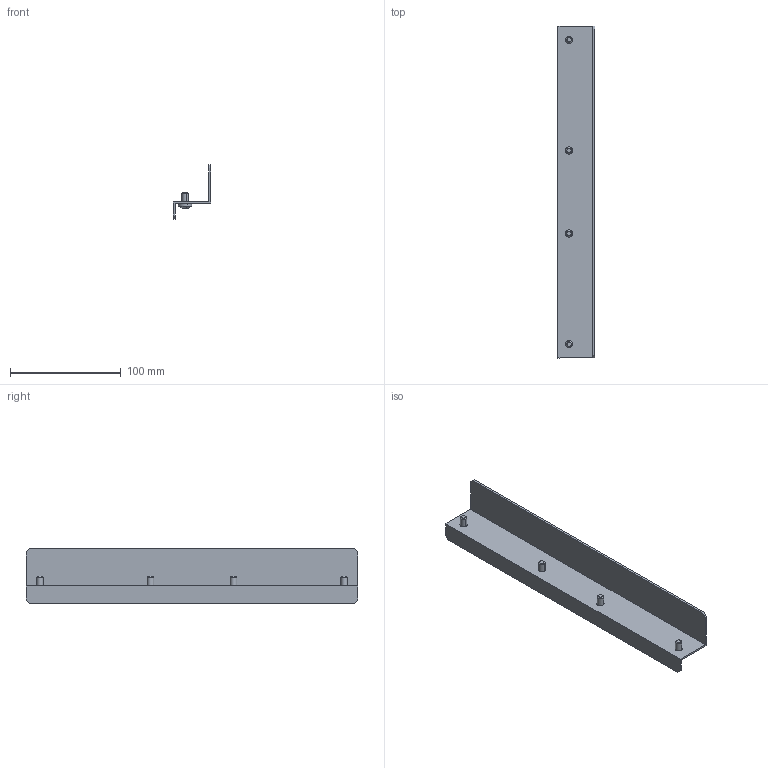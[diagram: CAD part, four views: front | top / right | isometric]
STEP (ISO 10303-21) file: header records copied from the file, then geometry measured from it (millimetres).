
FILE_DESCRIPTION (( 'STEP AP214' ), '1' );
FILE_NAME ('FO-00-BPS2-040 Ïëàíêà ñåêöèîíèðîâàíèÿ êîìïåíñàöèîííàÿ òèïà 2 â øêàô øèðèíîé 400 ìì.STEP', '2025-08-13T06:59:28', ( '' ), ( '' ), 'SwSTEP 2.0', 'SolidWorks 2023', '' );
FILE_SCHEMA (( 'AUTOMOTIVE_DESIGN' ));
Length unit declared in the file: millimetre
Products named in the file (1): FO-00-BPS2-040 Планка секционирования компенсационная типа 2 в шкаф шириной 400 мм
Bounding box: 33.5 x 300 x 49.5 mm (x, y, z)
Volume: 38972.8 mm3; surface area: 51445.7 mm2
Topology: 1 solids, 1 shells, 138 faces, 360 edges, 232 vertices
Faces by surface type: cylinder 84, plane 30, torus 8, cone 8, sphere 8
Entity records: 4407 total; most frequent: CARTESIAN_POINT 999, ORIENTED_EDGE 720, DIRECTION 710, EDGE_CURVE 360, AXIS2_PLACEMENT_3D 279, VERTEX_POINT 232, LINE 152, VECTOR 152
